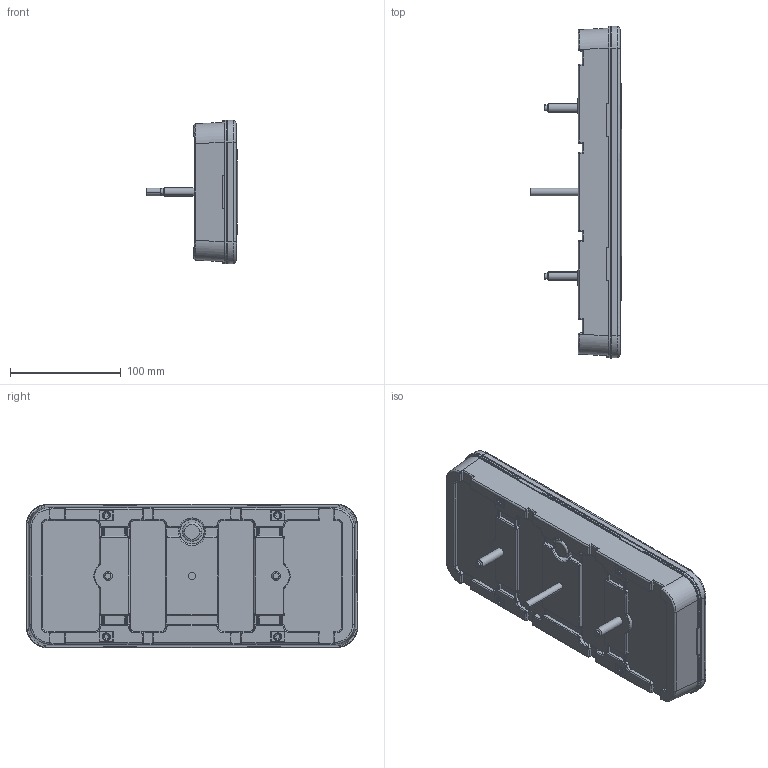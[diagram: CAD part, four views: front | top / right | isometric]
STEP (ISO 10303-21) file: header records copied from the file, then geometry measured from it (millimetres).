
FILE_DESCRIPTION(('CATIA V5 STEP Exchange','CAx-IF Rec.Pracs.--- Model Styling and Organization---1.5--- 2016-08-15','CAx-IF Rec.Pracs.---Supplemental Geometry---1.0---2011-11-01','CAx-IF Rec.Pracs.--- Composite Materials ---1.1---2010-07-15'),'2;1');
FILE_NAME('E:\tmp\ddx\2011206\HELLA_3D_data_Full_LED_rear_lamp_Coluna_345-900.stp','2022-01-18T07:25:38+00:00',('none'),('none'),'CATIA Version 5-6 Release 2020 SP3 HF9','CATIA V5 STEP AP214 Edition 3 v2','none');
FILE_SCHEMA(('AUTOMOTIVE_DESIGN { 1 0 10303 214 3 1 1 1 }'));
Length unit declared in the file: millimetre
Products named in the file (1): 10001117130_D10_001
Bounding box: 82.75 x 300 x 130 mm (x, y, z)
Volume: 1359934.6 mm3; surface area: 116640.1 mm2
Topology: 1 solids, 1 shells, 664 faces, 1662 edges, 1015 vertices
Faces by surface type: cylinder 283, plane 201, bspline 130, torus 26, cone 20, sphere 4
Entity records: 26583 total; most frequent: CARTESIAN_POINT 13369, ORIENTED_EDGE 3316, DIRECTION 1685, EDGE_CURVE 1658, VERTEX_POINT 1015, B_SPLINE_CURVE_WITH_KNOTS 775, EDGE_LOOP 683, ADVANCED_FACE 664
